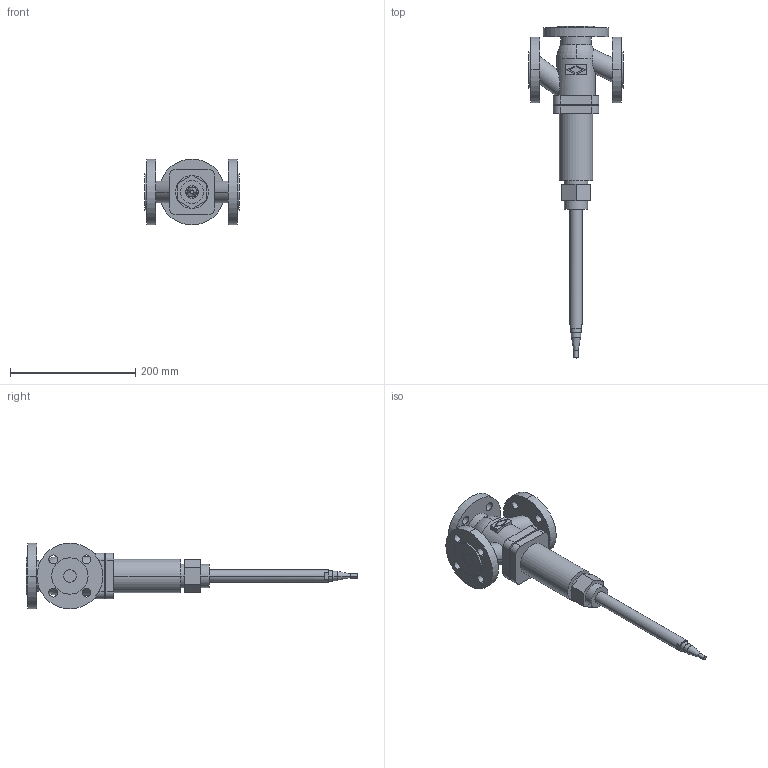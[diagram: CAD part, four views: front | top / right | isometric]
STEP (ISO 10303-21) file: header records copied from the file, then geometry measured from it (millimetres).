
FILE_DESCRIPTION(('CoCreate Modeling STEP Export'),'2;1');
FILE_NAME('c000004727.stp','2011-09-23T12:30:47',(''),(''),'CoCreate Modeling STEP processor for AP214 (Solid Model)','CoCreate Modeling 17.0 01-Apr-2010 (C) Parametric Technology GmbH','');
FILE_SCHEMA(('AUTOMOTIVE_DESIGN { 1 0 10303 214 1 1 1 1 }'));
Length unit declared in the file: millimetre
Products named in the file (1): 1
Bounding box: 150 x 529.44 x 105 mm (x, y, z)
Volume: 1200425.1 mm3; surface area: 150828.1 mm2
Topology: 1 solids, 1 shells, 136 faces, 331 edges, 219 vertices
Faces by surface type: cylinder 72, plane 60, torus 2, cone 2
Entity records: 4824 total; most frequent: CARTESIAN_POINT 728, ORIENTED_EDGE 662, DIRECTION 550, EDGE_CURVE 331, VERTEX_POINT 219, AXIS2_PLACEMENT_3D 191, EDGE_LOOP 182, VECTOR 168
